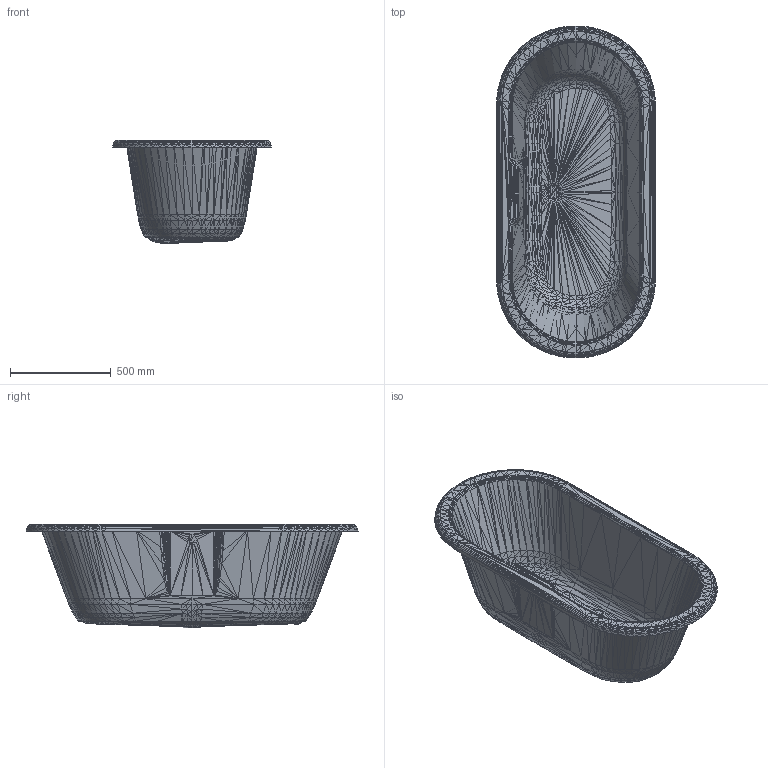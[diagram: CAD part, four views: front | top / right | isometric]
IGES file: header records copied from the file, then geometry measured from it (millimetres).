
Global section: file name: C:\Users\Sam Altman L JackSon\Downloads\Additional 2D and 3D files required for V+A NPD\York 1650\York 1650 - 3D IGS.igs; native system: Rhinoceros ( Mar  4 2026 ); preprocessor: Trout Lake IGES 012 Mar  4 2026; date: 260508.094138; units: millimetre
Bounding box: 788.97 x 1650 x 514.3 mm (x, y, z)
Surface area: 4878716.9 mm2 (no closed solid volume)
Topology: 0 solids, 0 shells, 8864 faces, 26592 edges, 26592 vertices
Faces by surface type: bspline 8864
